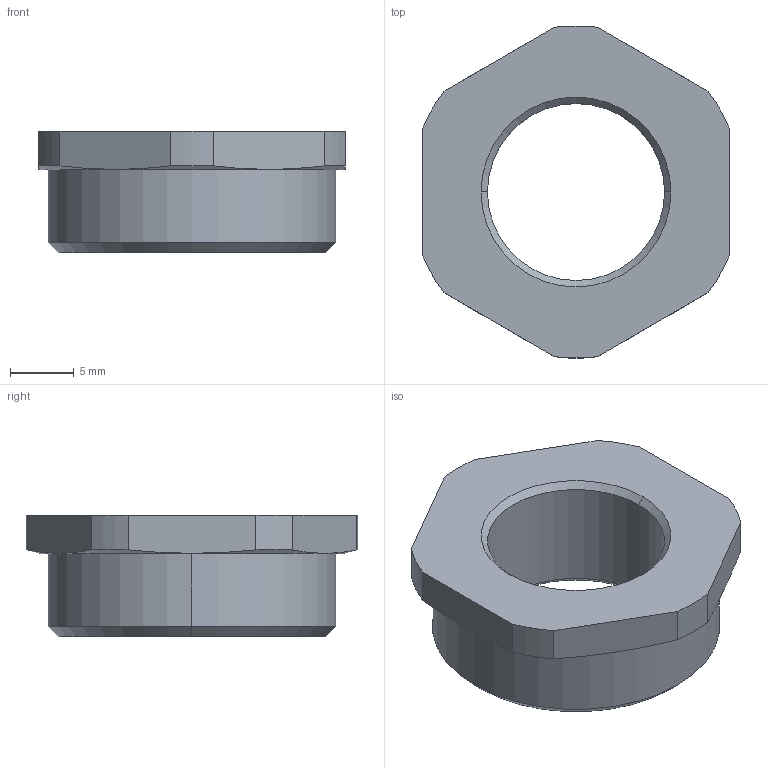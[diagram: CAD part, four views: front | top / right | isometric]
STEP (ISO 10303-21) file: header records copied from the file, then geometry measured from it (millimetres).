
FILE_DESCRIPTION (( 'STEP AP203' ), '1' );
FILE_NAME ('61609-OM.STEP', '2006-03-16T08:45:37', ( ' ' ), ( '' ), 'SwSTEP 2.0', 'SolidWorks 2005278', '' );
FILE_SCHEMA (( 'CONFIG_CONTROL_DESIGN' ));
Length unit declared in the file: millimetre
Products named in the file (1): 61609-OM
Bounding box: 24 x 25.98 x 9.5 mm (x, y, z)
Volume: 2584 mm3; surface area: 1725.9 mm2
Topology: 1 solids, 1 shells, 64 faces, 168 edges, 110 vertices
Faces by surface type: plane 46, cylinder 10, cone 8
Entity records: 2045 total; most frequent: CARTESIAN_POINT 371, ORIENTED_EDGE 336, DIRECTION 318, EDGE_CURVE 168, VECTOR 132, LINE 132, VERTEX_POINT 110, AXIS2_PLACEMENT_3D 93
